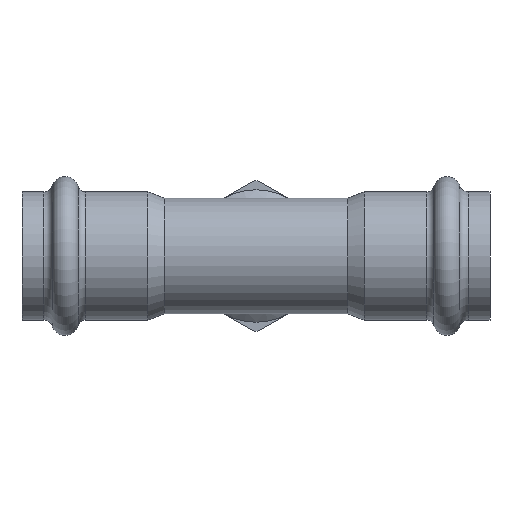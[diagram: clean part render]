
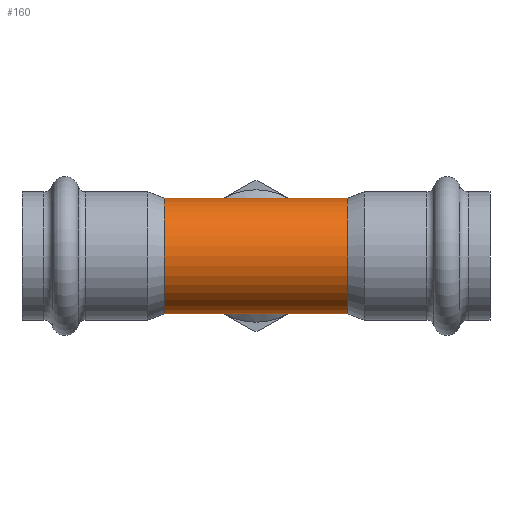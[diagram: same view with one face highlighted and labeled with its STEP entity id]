
A CAD part, front view. The second image highlights one B-rep face of the part: STEP entity #160.
In plain terms, the highlighted cylindrical face has radius 16 mm (diameter 32 mm), a full revolution.
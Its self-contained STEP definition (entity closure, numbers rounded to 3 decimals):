
#110=CYLINDRICAL_SURFACE('',#775,16.);
#129=B_SPLINE_CURVE_WITH_KNOTS('',3,(#1133,#1134,#1135,#1136,#1137,#1138,
#1139,#1140,#1141,#1142,#1143,#1144,#1145,#1146,#1147,#1148,#1149,#1150,
#1151,#1152,#1153,#1154,#1155,#1156,#1157,#1158,#1159,#1160,#1161,#1162,
#1163,#1164,#1165,#1166),.UNSPECIFIED.,.T.,.F.,(2,2,2,2,2,2,2,2,2,2,2,2,
2,2,2,2,2,2,2),(-0.063,0.,0.063,0.125,0.188,0.25,0.313,0.375,0.438,
0.5,0.563,0.625,0.688,0.75,0.813,0.875,0.938,1.,1.063),.UNSPECIFIED.);
#160=ADVANCED_FACE('',(#216,#217,#218),#110,.T.);
#216=FACE_BOUND('',#298,.T.);
#217=FACE_BOUND('',#299,.T.);
#218=FACE_BOUND('',#300,.T.);
#298=EDGE_LOOP('',(#472));
#299=EDGE_LOOP('',(#473));
#300=EDGE_LOOP('',(#474));
#389=CIRCLE('',#773,16.);
#390=CIRCLE('',#774,16.);
#472=ORIENTED_EDGE('',*,*,#666,.T.);
#473=ORIENTED_EDGE('',*,*,#667,.F.);
#474=ORIENTED_EDGE('',*,*,#668,.T.);
#593=VERTEX_POINT('',#1167);
#594=VERTEX_POINT('',#1169);
#595=VERTEX_POINT('',#1171);
#666=EDGE_CURVE('',#593,#593,#129,.T.);
#667=EDGE_CURVE('',#594,#594,#389,.T.);
#668=EDGE_CURVE('',#595,#595,#390,.T.);
#773=AXIS2_PLACEMENT_3D('',#1168,#917,#918);
#774=AXIS2_PLACEMENT_3D('',#1170,#919,#920);
#775=AXIS2_PLACEMENT_3D('',#1172,#921,#922);
#917=DIRECTION('',(-1.,0.,0.));
#918=DIRECTION('',(0.,0.,1.));
#919=DIRECTION('',(-1.,0.,0.));
#920=DIRECTION('',(0.,0.,1.));
#921=DIRECTION('',(-1.,0.,0.));
#922=DIRECTION('',(0.,0.,1.));
#1133=CARTESIAN_POINT('',(13.7,16.,-1.859));
#1134=CARTESIAN_POINT('',(13.7,16.,1.859));
#1135=CARTESIAN_POINT('',(13.265,15.666,3.666));
#1136=CARTESIAN_POINT('',(11.75,14.555,6.857));
#1137=CARTESIAN_POINT('',(10.697,13.798,8.214));
#1138=CARTESIAN_POINT('',(8.236,12.211,10.428));
#1139=CARTESIAN_POINT('',(6.813,11.362,11.302));
#1140=CARTESIAN_POINT('',(3.645,9.988,12.534));
#1141=CARTESIAN_POINT('',(1.828,9.471,12.896));
#1142=CARTESIAN_POINT('',(-1.855,9.476,12.892));
#1143=CARTESIAN_POINT('',(-3.649,9.988,12.534));
#1144=CARTESIAN_POINT('',(-6.833,11.373,11.293));
#1145=CARTESIAN_POINT('',(-8.234,12.21,10.43));
#1146=CARTESIAN_POINT('',(-10.705,13.804,8.206));
#1147=CARTESIAN_POINT('',(-11.736,14.545,6.877));
#1148=CARTESIAN_POINT('',(-13.254,15.658,3.698));
#1149=CARTESIAN_POINT('',(-13.695,15.996,1.867));
#1150=CARTESIAN_POINT('',(-13.705,16.004,-1.804));
#1151=CARTESIAN_POINT('',(-13.278,15.676,-3.623));
#1152=CARTESIAN_POINT('',(-11.775,14.573,-6.819));
#1153=CARTESIAN_POINT('',(-10.725,13.817,-8.182));
#1154=CARTESIAN_POINT('',(-8.264,12.228,-10.409));
#1155=CARTESIAN_POINT('',(-6.842,11.378,-11.287));
#1156=CARTESIAN_POINT('',(-3.673,9.997,-12.527));
#1157=CARTESIAN_POINT('',(-1.863,9.476,-12.892));
#1158=CARTESIAN_POINT('',(1.834,9.471,-12.896));
#1159=CARTESIAN_POINT('',(3.63,9.982,-12.539));
#1160=CARTESIAN_POINT('',(6.815,11.363,-11.302));
#1161=CARTESIAN_POINT('',(8.224,12.204,-10.437));
#1162=CARTESIAN_POINT('',(10.694,13.796,-8.218));
#1163=CARTESIAN_POINT('',(11.747,14.553,-6.861));
#1164=CARTESIAN_POINT('',(13.265,15.665,-3.668));
#1165=CARTESIAN_POINT('',(13.7,16.,-1.859));
#1166=CARTESIAN_POINT('',(13.7,16.,1.859));
#1167=CARTESIAN_POINT('',(13.7,16.,0.));
#1168=CARTESIAN_POINT('',(-25.524,0.,0.));
#1169=CARTESIAN_POINT('',(-25.524,0.,16.));
#1170=CARTESIAN_POINT('',(25.524,0.,0.));
#1171=CARTESIAN_POINT('',(25.524,0.,16.));
#1172=CARTESIAN_POINT('',(-12.7,0.,0.));
